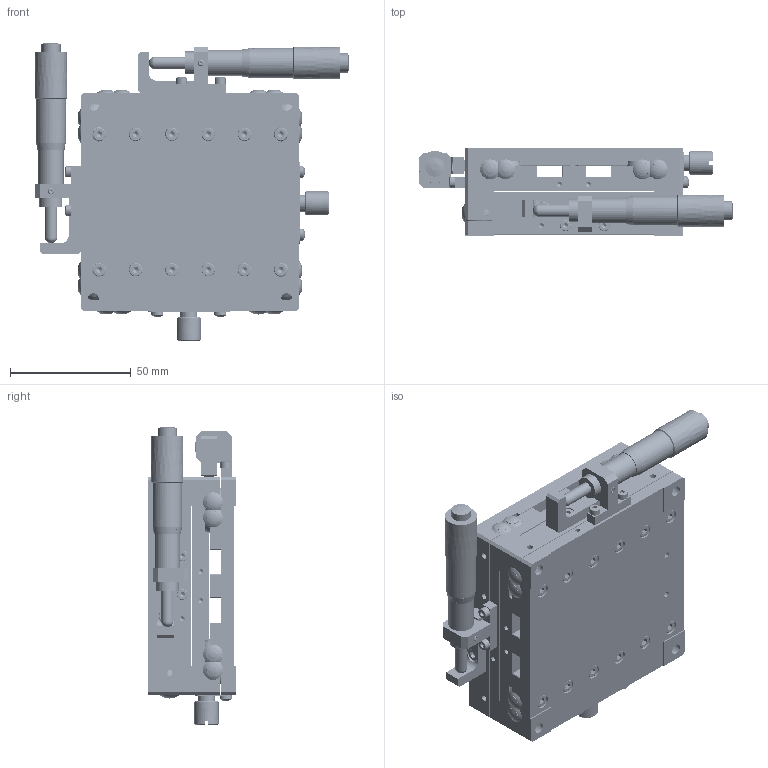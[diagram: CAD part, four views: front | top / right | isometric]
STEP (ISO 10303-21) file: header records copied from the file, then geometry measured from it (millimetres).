
FILE_DESCRIPTION (( 'STEP AP203' ), '1' );
FILE_NAME ('BPTB90.STEP', '2024-07-25T07:18:25', ( 'Windows User' ), ( 'P R C' ), 'SwSTEP 2.0', 'SolidWorks 2024', '' );
FILE_SCHEMA (( 'CONFIG_CONTROL_DESIGN' ));
Products named in the file (1): BPTB90
Bounding box: 129.95 x 36 x 123.3 mm (x, y, z)
Volume: 250827.9 mm3; surface area: 157301.4 mm2
Topology: 90 solids, 90 shells, 4724 faces, 11688 edges, 7454 vertices
Faces by surface type: plane 2070, bspline 1130, cylinder 844, cone 600, torus 74, sphere 6
Full cylindrical faces by diameter (mm): 1 x8, 2 x64, 2.05 x28, 2.5 x28, 2.55 x48, 3 x56, 3.1 x4, 3.2 x4, 3.3 x30, 3.4 x48, 4.4 x48, 4.5 x12, 5 x8, 5.5 x52, 5.8 x4, 6 x48, 7 x2, 8 x12, 8.1 x2, 9.5 x4, 10 x2, 10.373 x2, 12.25 x2, 13.3 x2
Entity records: 223121 total; most frequent: CARTESIAN_POINT 126573, ORIENTED_EDGE 20972, DIRECTION 15384, EDGE_CURVE 10486, VERTEX_POINT 7254, EDGE_LOOP 6616, AXIS2_PLACEMENT_3D 5687, FACE_OUTER_BOUND 5306
